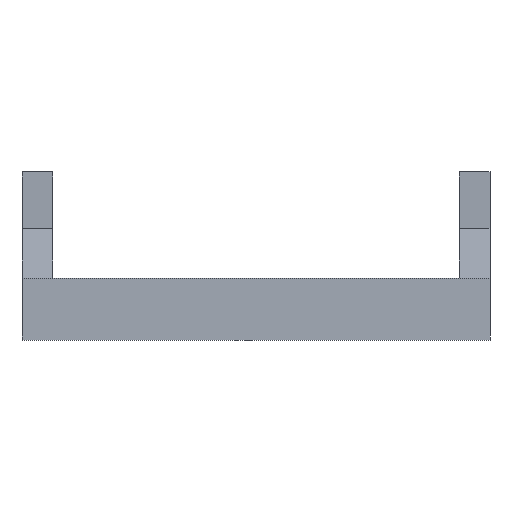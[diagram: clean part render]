
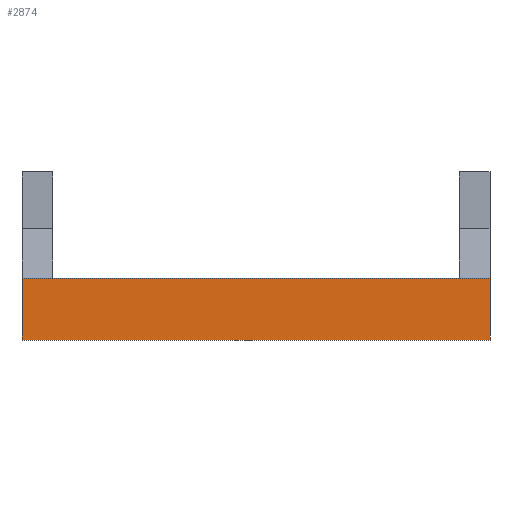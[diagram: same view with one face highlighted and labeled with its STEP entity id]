
A CAD part, left-side view. The second image highlights one B-rep face of the part: STEP entity #2874.
In plain terms, the highlighted planar face has unit normal (-1, 0, 0).
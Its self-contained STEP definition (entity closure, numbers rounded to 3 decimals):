
#2874 = ADVANCED_FACE('',(#2875),#2889,.F.);
#2875 = FACE_BOUND('',#2876,.F.);
#2876 = EDGE_LOOP('',(#2877,#2912,#2940,#2968));
#2877 = ORIENTED_EDGE('',*,*,#2878,.F.);
#2878 = EDGE_CURVE('',#2879,#2881,#2883,.T.);
#2879 = VERTEX_POINT('',#2880);
#2880 = CARTESIAN_POINT('',(-12.5,-45.5,-6.));
#2881 = VERTEX_POINT('',#2882);
#2882 = CARTESIAN_POINT('',(-12.5,-45.5,6.));
#2883 = SURFACE_CURVE('',#2884,(#2888,#2900),.PCURVE_S1.);
#2884 = LINE('',#2885,#2886);
#2885 = CARTESIAN_POINT('',(-12.5,-45.5,-6.));
#2886 = VECTOR('',#2887,1.);
#2887 = DIRECTION('',(0.,0.,1.));
#2888 = PCURVE('',#2889,#2894);
#2889 = PLANE('',#2890);
#2890 = AXIS2_PLACEMENT_3D('',#2891,#2892,#2893);
#2891 = CARTESIAN_POINT('',(-12.5,-45.5,-6.));
#2892 = DIRECTION('',(1.,0.,0.));
#2893 = DIRECTION('',(0.,0.,1.));
#2894 = DEFINITIONAL_REPRESENTATION('',(#2895),#2899);
#2895 = LINE('',#2896,#2897);
#2896 = CARTESIAN_POINT('',(0.,0.));
#2897 = VECTOR('',#2898,1.);
#2898 = DIRECTION('',(1.,0.));
#2899 = ( GEOMETRIC_REPRESENTATION_CONTEXT(2) 
PARAMETRIC_REPRESENTATION_CONTEXT() REPRESENTATION_CONTEXT('2D SPACE',''
  ) );
#2900 = PCURVE('',#2901,#2906);
#2901 = PLANE('',#2902);
#2902 = AXIS2_PLACEMENT_3D('',#2903,#2904,#2905);
#2903 = CARTESIAN_POINT('',(-12.5,-45.5,-6.));
#2904 = DIRECTION('',(0.,1.,0.));
#2905 = DIRECTION('',(0.,0.,1.));
#2906 = DEFINITIONAL_REPRESENTATION('',(#2907),#2911);
#2907 = LINE('',#2908,#2909);
#2908 = CARTESIAN_POINT('',(0.,0.));
#2909 = VECTOR('',#2910,1.);
#2910 = DIRECTION('',(1.,0.));
#2911 = ( GEOMETRIC_REPRESENTATION_CONTEXT(2) 
PARAMETRIC_REPRESENTATION_CONTEXT() REPRESENTATION_CONTEXT('2D SPACE',''
  ) );
#2912 = ORIENTED_EDGE('',*,*,#2913,.T.);
#2913 = EDGE_CURVE('',#2879,#2914,#2916,.T.);
#2914 = VERTEX_POINT('',#2915);
#2915 = CARTESIAN_POINT('',(-12.5,45.5,-6.));
#2916 = SURFACE_CURVE('',#2917,(#2921,#2928),.PCURVE_S1.);
#2917 = LINE('',#2918,#2919);
#2918 = CARTESIAN_POINT('',(-12.5,-45.5,-6.));
#2919 = VECTOR('',#2920,1.);
#2920 = DIRECTION('',(0.,1.,0.));
#2921 = PCURVE('',#2889,#2922);
#2922 = DEFINITIONAL_REPRESENTATION('',(#2923),#2927);
#2923 = LINE('',#2924,#2925);
#2924 = CARTESIAN_POINT('',(0.,0.));
#2925 = VECTOR('',#2926,1.);
#2926 = DIRECTION('',(0.,-1.));
#2927 = ( GEOMETRIC_REPRESENTATION_CONTEXT(2) 
PARAMETRIC_REPRESENTATION_CONTEXT() REPRESENTATION_CONTEXT('2D SPACE',''
  ) );
#2928 = PCURVE('',#2929,#2934);
#2929 = PLANE('',#2930);
#2930 = AXIS2_PLACEMENT_3D('',#2931,#2932,#2933);
#2931 = CARTESIAN_POINT('',(-12.5,-45.5,-6.));
#2932 = DIRECTION('',(0.,0.,1.));
#2933 = DIRECTION('',(1.,0.,0.));
#2934 = DEFINITIONAL_REPRESENTATION('',(#2935),#2939);
#2935 = LINE('',#2936,#2937);
#2936 = CARTESIAN_POINT('',(0.,0.));
#2937 = VECTOR('',#2938,1.);
#2938 = DIRECTION('',(0.,1.));
#2939 = ( GEOMETRIC_REPRESENTATION_CONTEXT(2) 
PARAMETRIC_REPRESENTATION_CONTEXT() REPRESENTATION_CONTEXT('2D SPACE',''
  ) );
#2940 = ORIENTED_EDGE('',*,*,#2941,.T.);
#2941 = EDGE_CURVE('',#2914,#2942,#2944,.T.);
#2942 = VERTEX_POINT('',#2943);
#2943 = CARTESIAN_POINT('',(-12.5,45.5,6.));
#2944 = SURFACE_CURVE('',#2945,(#2949,#2956),.PCURVE_S1.);
#2945 = LINE('',#2946,#2947);
#2946 = CARTESIAN_POINT('',(-12.5,45.5,-6.));
#2947 = VECTOR('',#2948,1.);
#2948 = DIRECTION('',(0.,0.,1.));
#2949 = PCURVE('',#2889,#2950);
#2950 = DEFINITIONAL_REPRESENTATION('',(#2951),#2955);
#2951 = LINE('',#2952,#2953);
#2952 = CARTESIAN_POINT('',(0.,-91.));
#2953 = VECTOR('',#2954,1.);
#2954 = DIRECTION('',(1.,0.));
#2955 = ( GEOMETRIC_REPRESENTATION_CONTEXT(2) 
PARAMETRIC_REPRESENTATION_CONTEXT() REPRESENTATION_CONTEXT('2D SPACE',''
  ) );
#2956 = PCURVE('',#2957,#2962);
#2957 = PLANE('',#2958);
#2958 = AXIS2_PLACEMENT_3D('',#2959,#2960,#2961);
#2959 = CARTESIAN_POINT('',(-12.5,45.5,-6.));
#2960 = DIRECTION('',(0.,1.,0.));
#2961 = DIRECTION('',(0.,0.,1.));
#2962 = DEFINITIONAL_REPRESENTATION('',(#2963),#2967);
#2963 = LINE('',#2964,#2965);
#2964 = CARTESIAN_POINT('',(0.,0.));
#2965 = VECTOR('',#2966,1.);
#2966 = DIRECTION('',(1.,0.));
#2967 = ( GEOMETRIC_REPRESENTATION_CONTEXT(2) 
PARAMETRIC_REPRESENTATION_CONTEXT() REPRESENTATION_CONTEXT('2D SPACE',''
  ) );
#2968 = ORIENTED_EDGE('',*,*,#2969,.F.);
#2969 = EDGE_CURVE('',#2881,#2942,#2970,.T.);
#2970 = SURFACE_CURVE('',#2971,(#2975,#2982),.PCURVE_S1.);
#2971 = LINE('',#2972,#2973);
#2972 = CARTESIAN_POINT('',(-12.5,-45.5,6.));
#2973 = VECTOR('',#2974,1.);
#2974 = DIRECTION('',(0.,1.,0.));
#2975 = PCURVE('',#2889,#2976);
#2976 = DEFINITIONAL_REPRESENTATION('',(#2977),#2981);
#2977 = LINE('',#2978,#2979);
#2978 = CARTESIAN_POINT('',(12.,0.));
#2979 = VECTOR('',#2980,1.);
#2980 = DIRECTION('',(0.,-1.));
#2981 = ( GEOMETRIC_REPRESENTATION_CONTEXT(2) 
PARAMETRIC_REPRESENTATION_CONTEXT() REPRESENTATION_CONTEXT('2D SPACE',''
  ) );
#2982 = PCURVE('',#2983,#2988);
#2983 = PLANE('',#2984);
#2984 = AXIS2_PLACEMENT_3D('',#2985,#2986,#2987);
#2985 = CARTESIAN_POINT('',(-12.5,-45.5,6.));
#2986 = DIRECTION('',(0.,0.,1.));
#2987 = DIRECTION('',(1.,0.,0.));
#2988 = DEFINITIONAL_REPRESENTATION('',(#2989),#2993);
#2989 = LINE('',#2990,#2991);
#2990 = CARTESIAN_POINT('',(0.,0.));
#2991 = VECTOR('',#2992,1.);
#2992 = DIRECTION('',(0.,1.));
#2993 = ( GEOMETRIC_REPRESENTATION_CONTEXT(2) 
PARAMETRIC_REPRESENTATION_CONTEXT() REPRESENTATION_CONTEXT('2D SPACE',''
  ) );
